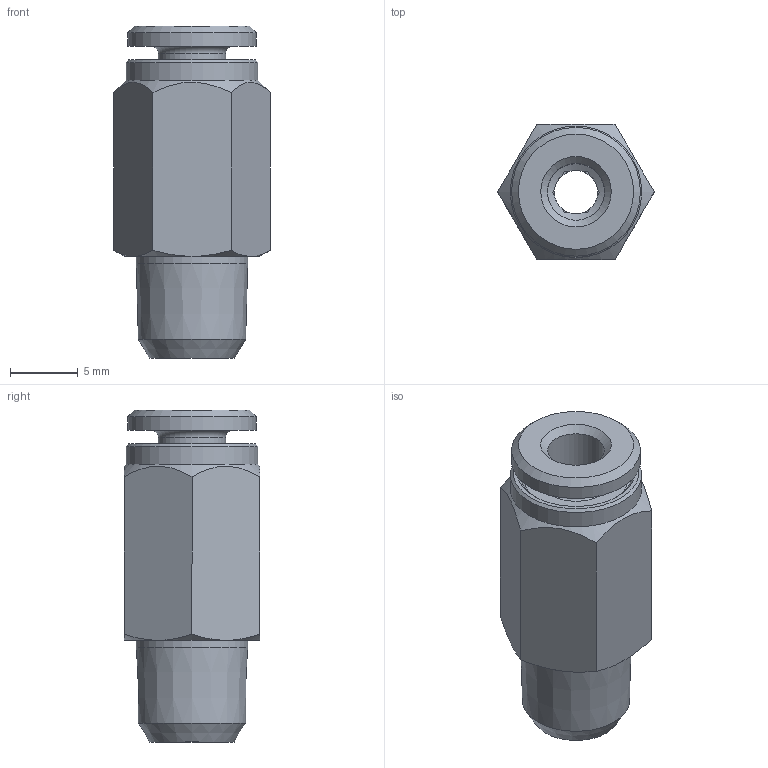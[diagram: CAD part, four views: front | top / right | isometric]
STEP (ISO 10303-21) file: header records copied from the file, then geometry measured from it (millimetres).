
FILE_DESCRIPTION(/* description */ (''),/* implementation_level */ '2;1');
FILE_NAME(/* name */ '9911_0701_0440_HSV-Gerade',/* time_stamp */ '2017-05-03T12:18:07+02:00',/* author */ (''),/* organization */ (''),/* preprocessor_version */ 'ST-DEVELOPER v16.5',/* originating_system */ 'HiCAD 2016 2102.1 Build 498',/* authorisation */ '');
FILE_SCHEMA (('AUTOMOTIVE_DESIGN { 1 0 10303 214 1 1 1 1 }'));
Length unit declared in the file: millimetre
Products named in the file (3): Root; RIVOLUZIONE_0; ONLINE_DR4_HSV_26.11.15
Assembly tree (2 placements, depth 2):
  Root
    RIVOLUZIONE_0
    ONLINE_DR4_HSV_26.11.15
Bounding box: 11.55 x 10 x 24.5 mm (x, y, z)
Volume: 1222.2 mm3; surface area: 1766.2 mm2
Topology: 2 solids, 2 shells, 64 faces, 145 edges, 90 vertices
Faces by surface type: plane 33, cone 18, cylinder 10, torus 3
Full cylindrical faces by diameter (mm): 3.2 x1, 4.2 x2, 5 x1, 7.3 x1, 8 x1, 8.219 x1, 8.3 x1, 9.5 x1, 9.7 x1
Entity records: 2876 total; most frequent: DIRECTION 332, CARTESIAN_POINT 270, PRESENTATION_STYLE_ASSIGNMENT 234, COLOUR_RGB 234, DRAUGHTING_PRE_DEFINED_CURVE_FONT 232, CURVE_STYLE 232, OVER_RIDING_STYLED_ITEM 232, ORIENTED_EDGE 232
